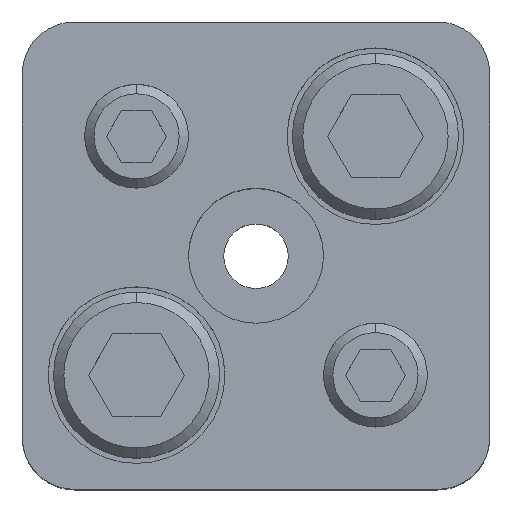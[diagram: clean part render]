
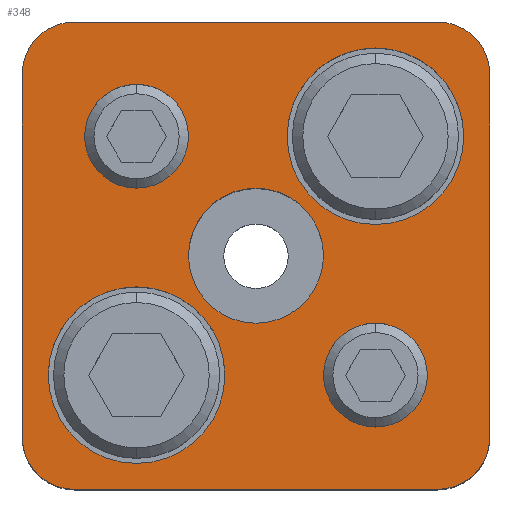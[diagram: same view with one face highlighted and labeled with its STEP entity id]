
A CAD part, top view. The second image highlights one B-rep face of the part: STEP entity #348.
In plain terms, the highlighted planar face has unit normal (0, 0, 1).
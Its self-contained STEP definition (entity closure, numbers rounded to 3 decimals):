
#173=PLANE('',#2995);
#248=FACE_BOUND('',#745,.T.);
#249=FACE_BOUND('',#746,.T.);
#250=FACE_BOUND('',#747,.T.);
#251=FACE_BOUND('',#748,.T.);
#252=FACE_BOUND('',#749,.T.);
#253=FACE_BOUND('',#750,.T.);
#348=ADVANCED_FACE('',(#248,#249,#250,#251,#252,#253),#173,.T.);
#745=EDGE_LOOP('',(#1597,#1598,#1599,#1600,#1601,#1602,#1603,#1604));
#746=EDGE_LOOP('',(#1605,#1606));
#747=EDGE_LOOP('',(#1607,#1608));
#748=EDGE_LOOP('',(#1609,#1610));
#749=EDGE_LOOP('',(#1611,#1612));
#750=EDGE_LOOP('',(#1613,#1614));
#934=LINE('',#4430,#1142);
#935=LINE('',#4434,#1143);
#936=LINE('',#4438,#1144);
#937=LINE('',#4442,#1145);
#1142=VECTOR('',#3559,1.);
#1143=VECTOR('',#3562,1.);
#1144=VECTOR('',#3565,1.);
#1145=VECTOR('',#3568,1.);
#1597=ORIENTED_EDGE('',*,*,#2454,.T.);
#1598=ORIENTED_EDGE('',*,*,#2455,.T.);
#1599=ORIENTED_EDGE('',*,*,#2456,.T.);
#1600=ORIENTED_EDGE('',*,*,#2457,.T.);
#1601=ORIENTED_EDGE('',*,*,#2458,.T.);
#1602=ORIENTED_EDGE('',*,*,#2459,.T.);
#1603=ORIENTED_EDGE('',*,*,#2460,.T.);
#1604=ORIENTED_EDGE('',*,*,#2461,.T.);
#1605=ORIENTED_EDGE('',*,*,#2462,.F.);
#1606=ORIENTED_EDGE('',*,*,#2463,.F.);
#1607=ORIENTED_EDGE('',*,*,#2464,.F.);
#1608=ORIENTED_EDGE('',*,*,#2465,.F.);
#1609=ORIENTED_EDGE('',*,*,#2440,.F.);
#1610=ORIENTED_EDGE('',*,*,#2436,.F.);
#1611=ORIENTED_EDGE('',*,*,#2434,.F.);
#1612=ORIENTED_EDGE('',*,*,#2430,.F.);
#1613=ORIENTED_EDGE('',*,*,#2466,.T.);
#1614=ORIENTED_EDGE('',*,*,#2467,.T.);
#2135=VERTEX_POINT('',#4378);
#2136=VERTEX_POINT('',#4379);
#2139=VERTEX_POINT('',#4391);
#2140=VERTEX_POINT('',#4392);
#2151=VERTEX_POINT('',#4428);
#2152=VERTEX_POINT('',#4429);
#2153=VERTEX_POINT('',#4431);
#2154=VERTEX_POINT('',#4433);
#2155=VERTEX_POINT('',#4435);
#2156=VERTEX_POINT('',#4437);
#2157=VERTEX_POINT('',#4439);
#2158=VERTEX_POINT('',#4441);
#2159=VERTEX_POINT('',#4444);
#2160=VERTEX_POINT('',#4445);
#2161=VERTEX_POINT('',#4448);
#2162=VERTEX_POINT('',#4449);
#2163=VERTEX_POINT('',#4452);
#2164=VERTEX_POINT('',#4453);
#2430=EDGE_CURVE('',#2135,#2136,#2735,.T.);
#2434=EDGE_CURVE('',#2136,#2135,#2737,.T.);
#2436=EDGE_CURVE('',#2139,#2140,#2739,.T.);
#2440=EDGE_CURVE('',#2140,#2139,#2741,.T.);
#2454=EDGE_CURVE('',#2151,#2152,#2751,.T.);
#2455=EDGE_CURVE('',#2152,#2153,#934,.T.);
#2456=EDGE_CURVE('',#2153,#2154,#2752,.T.);
#2457=EDGE_CURVE('',#2154,#2155,#935,.T.);
#2458=EDGE_CURVE('',#2155,#2156,#2753,.T.);
#2459=EDGE_CURVE('',#2156,#2157,#936,.T.);
#2460=EDGE_CURVE('',#2157,#2158,#2754,.T.);
#2461=EDGE_CURVE('',#2158,#2151,#937,.T.);
#2462=EDGE_CURVE('',#2159,#2160,#2755,.T.);
#2463=EDGE_CURVE('',#2160,#2159,#2756,.T.);
#2464=EDGE_CURVE('',#2161,#2162,#2757,.T.);
#2465=EDGE_CURVE('',#2162,#2161,#2758,.T.);
#2466=EDGE_CURVE('',#2163,#2164,#2759,.T.);
#2467=EDGE_CURVE('',#2164,#2163,#2760,.T.);
#2735=CIRCLE('',#2959,5.);
#2737=CIRCLE('',#2962,5.);
#2739=CIRCLE('',#2966,5.);
#2741=CIRCLE('',#2969,5.);
#2751=CIRCLE('',#2985,5.);
#2752=CIRCLE('',#2986,5.);
#2753=CIRCLE('',#2987,5.);
#2754=CIRCLE('',#2988,5.);
#2755=CIRCLE('',#2989,8.5);
#2756=CIRCLE('',#2990,8.5);
#2757=CIRCLE('',#2991,8.5);
#2758=CIRCLE('',#2992,8.5);
#2759=CIRCLE('',#2993,6.5);
#2760=CIRCLE('',#2994,6.5);
#2959=AXIS2_PLACEMENT_3D('',#4377,#3497,#3498);
#2962=AXIS2_PLACEMENT_3D('',#4386,#3505,#3506);
#2966=AXIS2_PLACEMENT_3D('',#4390,#3513,#3514);
#2969=AXIS2_PLACEMENT_3D('',#4399,#3521,#3522);
#2985=AXIS2_PLACEMENT_3D('',#4427,#3557,#3558);
#2986=AXIS2_PLACEMENT_3D('',#4432,#3560,#3561);
#2987=AXIS2_PLACEMENT_3D('',#4436,#3563,#3564);
#2988=AXIS2_PLACEMENT_3D('',#4440,#3566,#3567);
#2989=AXIS2_PLACEMENT_3D('',#4443,#3569,#3570);
#2990=AXIS2_PLACEMENT_3D('',#4446,#3571,#3572);
#2991=AXIS2_PLACEMENT_3D('',#4447,#3573,#3574);
#2992=AXIS2_PLACEMENT_3D('',#4450,#3575,#3576);
#2993=AXIS2_PLACEMENT_3D('',#4451,#3577,#3578);
#2994=AXIS2_PLACEMENT_3D('',#4454,#3579,#3580);
#2995=AXIS2_PLACEMENT_3D('',#4455,#3581,#3582);
#3497=DIRECTION('',(0.,0.,1.));
#3498=DIRECTION('',(-1.,0.,0.));
#3505=DIRECTION('',(0.,0.,1.));
#3506=DIRECTION('',(1.,0.,0.));
#3513=DIRECTION('',(0.,0.,1.));
#3514=DIRECTION('',(-1.,0.,0.));
#3521=DIRECTION('',(0.,0.,1.));
#3522=DIRECTION('',(1.,0.,0.));
#3557=DIRECTION('',(0.,0.,1.));
#3558=DIRECTION('',(-0.707,0.707,0.));
#3559=DIRECTION('',(0.,1.,0.));
#3560=DIRECTION('',(0.,0.,1.));
#3561=DIRECTION('',(-0.707,-0.707,0.));
#3562=DIRECTION('',(-1.,0.,0.));
#3563=DIRECTION('',(0.,0.,1.));
#3564=DIRECTION('',(0.707,-0.707,0.));
#3565=DIRECTION('',(0.,-1.,0.));
#3566=DIRECTION('',(0.,0.,1.));
#3567=DIRECTION('',(0.707,0.707,0.));
#3568=DIRECTION('',(1.,0.,0.));
#3569=DIRECTION('',(0.,0.,1.));
#3570=DIRECTION('',(1.,0.,0.));
#3571=DIRECTION('',(0.,0.,1.));
#3572=DIRECTION('',(-1.,0.,0.));
#3573=DIRECTION('',(0.,0.,1.));
#3574=DIRECTION('',(1.,0.,0.));
#3575=DIRECTION('',(0.,0.,1.));
#3576=DIRECTION('',(-1.,0.,0.));
#3577=DIRECTION('',(0.,0.,-1.));
#3578=DIRECTION('',(-1.,0.,0.));
#3579=DIRECTION('',(0.,0.,-1.));
#3580=DIRECTION('',(1.,0.,0.));
#3581=DIRECTION('',(0.,0.,1.));
#3582=DIRECTION('',(-1.,0.,0.));
#4377=CARTESIAN_POINT('',(11.5,-11.5,35.));
#4378=CARTESIAN_POINT('',(11.5,-16.5,35.));
#4379=CARTESIAN_POINT('',(11.5,-6.5,35.));
#4386=CARTESIAN_POINT('',(11.5,-11.5,35.));
#4390=CARTESIAN_POINT('',(-11.5,11.5,35.));
#4391=CARTESIAN_POINT('',(-11.5,6.5,35.));
#4392=CARTESIAN_POINT('',(-11.5,16.5,35.));
#4399=CARTESIAN_POINT('',(-11.5,11.5,35.));
#4427=CARTESIAN_POINT('',(17.5,-17.5,35.));
#4428=CARTESIAN_POINT('',(17.5,-22.5,35.));
#4429=CARTESIAN_POINT('',(22.5,-17.5,35.));
#4430=CARTESIAN_POINT('',(22.5,17.5,35.));
#4431=CARTESIAN_POINT('',(22.5,17.5,35.));
#4432=CARTESIAN_POINT('',(17.5,17.5,35.));
#4433=CARTESIAN_POINT('',(17.5,22.5,35.));
#4434=CARTESIAN_POINT('',(-17.5,22.5,35.));
#4435=CARTESIAN_POINT('',(-17.5,22.5,35.));
#4436=CARTESIAN_POINT('',(-17.5,17.5,35.));
#4437=CARTESIAN_POINT('',(-22.5,17.5,35.));
#4438=CARTESIAN_POINT('',(-22.5,17.5,35.));
#4439=CARTESIAN_POINT('',(-22.5,-17.5,35.));
#4440=CARTESIAN_POINT('',(-17.5,-17.5,35.));
#4441=CARTESIAN_POINT('',(-17.5,-22.5,35.));
#4442=CARTESIAN_POINT('',(-17.5,-22.5,35.));
#4443=CARTESIAN_POINT('',(11.5,11.5,35.));
#4444=CARTESIAN_POINT('',(11.5,20.,35.));
#4445=CARTESIAN_POINT('',(11.5,3.,35.));
#4446=CARTESIAN_POINT('',(11.5,11.5,35.));
#4447=CARTESIAN_POINT('',(-11.5,-11.5,35.));
#4448=CARTESIAN_POINT('',(-11.5,-3.,35.));
#4449=CARTESIAN_POINT('',(-11.5,-20.,35.));
#4450=CARTESIAN_POINT('',(-11.5,-11.5,35.));
#4451=CARTESIAN_POINT('',(0.,0.,35.));
#4452=CARTESIAN_POINT('',(0.,6.5,35.));
#4453=CARTESIAN_POINT('',(0.,-6.5,35.));
#4454=CARTESIAN_POINT('',(0.,0.,35.));
#4455=CARTESIAN_POINT('',(17.5,-22.5,35.));
